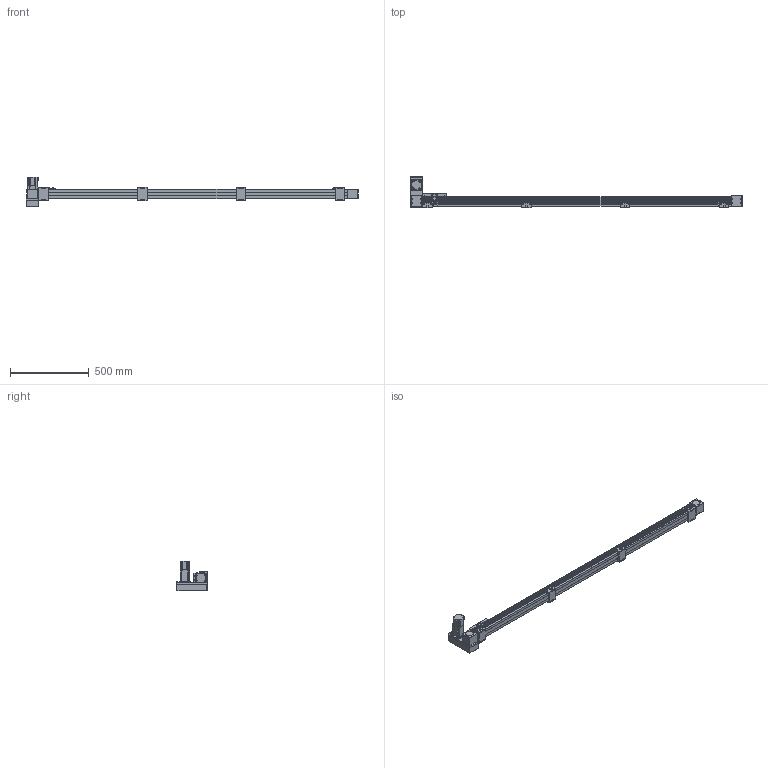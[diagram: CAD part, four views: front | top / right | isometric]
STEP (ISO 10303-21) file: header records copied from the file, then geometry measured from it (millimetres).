
FILE_DESCRIPTION(/* description */ ('STEP AP214'),/* implementation_level */ '2;1');
FILE_NAME(/* name */ 'SK60-P13-S1800-LU-T40-C1-N(0)',/* time_stamp */ '2023-04-06T04:48:16+02:00',/* author */ ('License CC BY-ND 4.0'),/* organization */ ('CADENAS'),/* preprocessor_version */ 'ST-DEVELOPER v19.3',/* originating_system */ 'PARTsolutions',/* authorisation */ ' ');
FILE_SCHEMA (('AUTOMOTIVE_DESIGN {1 0 10303 214 3 1 1}'));
Length unit declared in the file: millimetre
Products named in the file (10): SK60-P13-S1800-LU-T40-C1-N(0); PSC140-sensor; SK60-S450_seat; SK60-S450-BL-C1_slider; SK60_body3; SK60_body6; SK60-BL_body2; T40-p1; SK60-LU_fb; SK60-S1800-LU-C1_body
Assembly tree (18 placements, depth 2):
  SK60-P13-S1800-LU-T40-C1-N(0)
    PSC140-sensor  x3
    SK60-S450_seat  x4
    SK60-S450-BL-C1_slider
    SK60_body3  x3
    SK60_body6  x2
    SK60-BL_body2  x2
    T40-p1
    SK60-LU_fb
    SK60-S1800-LU-C1_body
Bounding box: 2105.5 x 201 x 189.7 mm (x, y, z)
Volume: 8341993.6 mm3; surface area: 1003301.3 mm2
Topology: 18 solids, 18 shells, 898 faces, 2244 edges, 1477 vertices
Faces by surface type: plane 572, cylinder 294, cone 30, torus 2
Full cylindrical faces by diameter (mm): 2.8 x3, 3.3 x4, 4 x2, 4.5 x30, 4.6 x3, 4.917 x24, 5 x6, 5.478 x4, 5.5 x27, 6.5 x8, 7 x2, 8 x4, 8.5 x4, 9.988 x4, 10 x16, 14 x1, 47 x3, 50 x2
Entity records: 18671 total; most frequent: DIRECTION 3188, CARTESIAN_POINT 3152, ORIENTED_EDGE 2940, EDGE_CURVE 1470, AXIS2_PLACEMENT_3D 1070, LINE 1048, VECTOR 1048, VERTEX_POINT 1034
